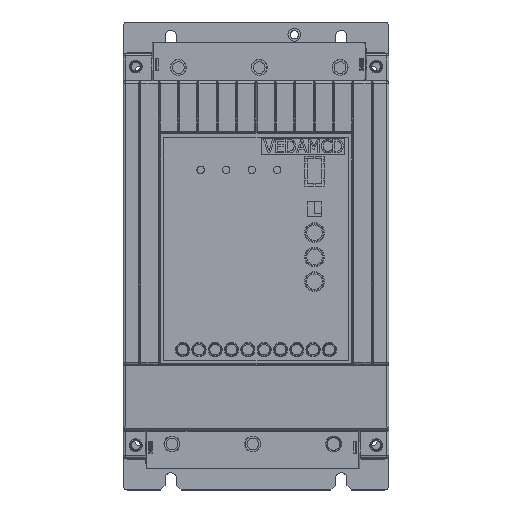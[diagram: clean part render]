
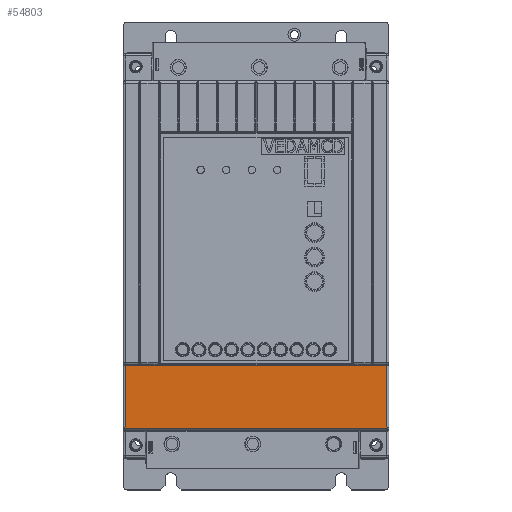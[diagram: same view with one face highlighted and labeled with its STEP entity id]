
A CAD part, top view. The second image highlights one B-rep face of the part: STEP entity #54803.
In plain terms, the highlighted planar face has unit normal (0, -0.033, 1).
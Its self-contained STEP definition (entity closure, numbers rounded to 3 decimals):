
#2530=FACE_OUTER_BOUND('',#5337,.T.);
#5337=EDGE_LOOP('',(#37227,#37228,#37229,#37230));
#9732=LINE('',#80380,#16317);
#9733=LINE('',#80382,#16318);
#9734=LINE('',#80384,#16319);
#9735=LINE('',#80385,#16320);
#16317=VECTOR('',#63910,10.);
#16318=VECTOR('',#63911,1.);
#16319=VECTOR('',#63912,1.);
#16320=VECTOR('',#63913,1.);
#22798=VERTEX_POINT('',#80378);
#22799=VERTEX_POINT('',#80379);
#22800=VERTEX_POINT('',#80381);
#22801=VERTEX_POINT('',#80383);
#28351=EDGE_CURVE('',#22798,#22799,#9732,.T.);
#28352=EDGE_CURVE('',#22799,#22800,#9733,.T.);
#28353=EDGE_CURVE('',#22800,#22801,#9734,.T.);
#28354=EDGE_CURVE('',#22801,#22798,#9735,.T.);
#37227=ORIENTED_EDGE('',*,*,#28351,.T.);
#37228=ORIENTED_EDGE('',*,*,#28352,.T.);
#37229=ORIENTED_EDGE('',*,*,#28353,.T.);
#37230=ORIENTED_EDGE('',*,*,#28354,.T.);
#49853=PLANE('',#57696);
#54803=ADVANCED_FACE('',(#2530),#49853,.F.);
#57696=AXIS2_PLACEMENT_3D('',#80377,#63908,#63909);
#63908=DIRECTION('center_axis',(0.,0.033,
-0.999));
#63909=DIRECTION('ref_axis',(0.,0.999,0.033));
#63910=DIRECTION('',(1.,0.,0.));
#63911=DIRECTION('',(0.,0.999,0.033));
#63912=DIRECTION('',(-1.,0.,0.));
#63913=DIRECTION('',(0.,-0.999,-0.033));
#80377=CARTESIAN_POINT('Origin',(-350.,-101.3,54.8));
#80378=CARTESIAN_POINT('',(-411.5,-100.339,54.831));
#80379=CARTESIAN_POINT('',(-288.5,-100.339,54.831));
#80380=CARTESIAN_POINT('',(-411.5,-100.339,54.831));
#80381=CARTESIAN_POINT('',(-288.5,-71.034,55.784));
#80382=CARTESIAN_POINT('',(-288.5,-70.652,55.797));
#80383=CARTESIAN_POINT('',(-411.5,-71.034,55.784));
#80384=CARTESIAN_POINT('',(-350.,-71.034,55.784));
#80385=CARTESIAN_POINT('',(-411.5,-100.3,54.833));
